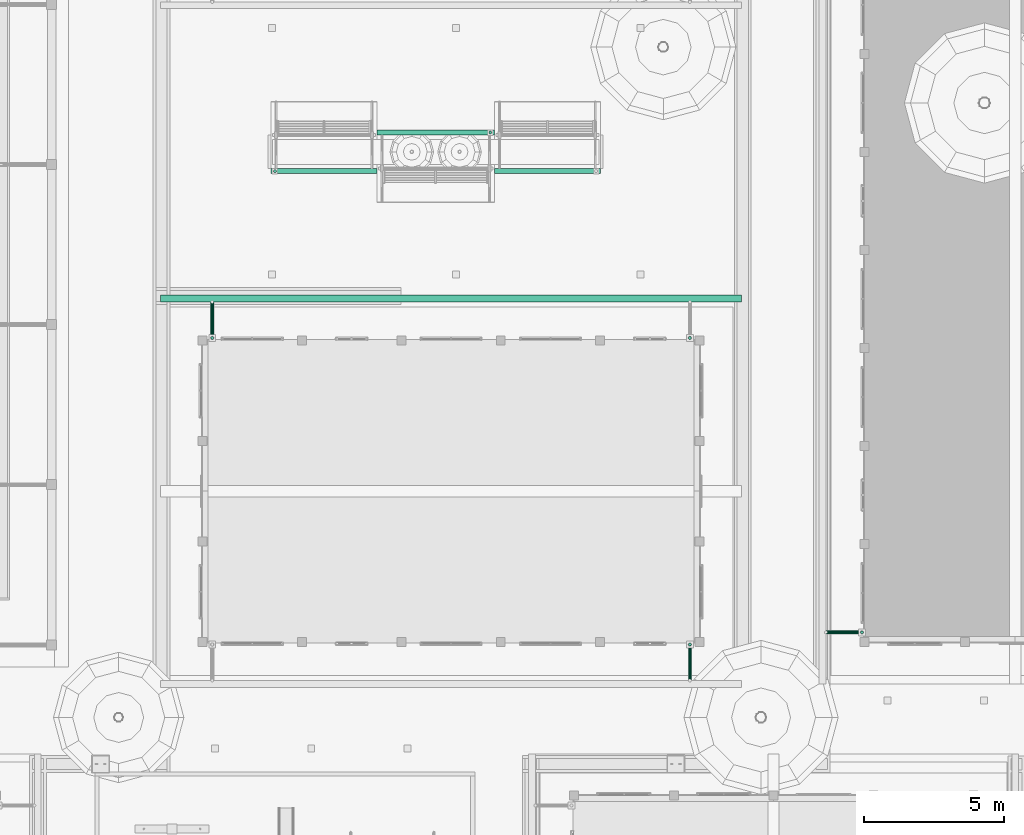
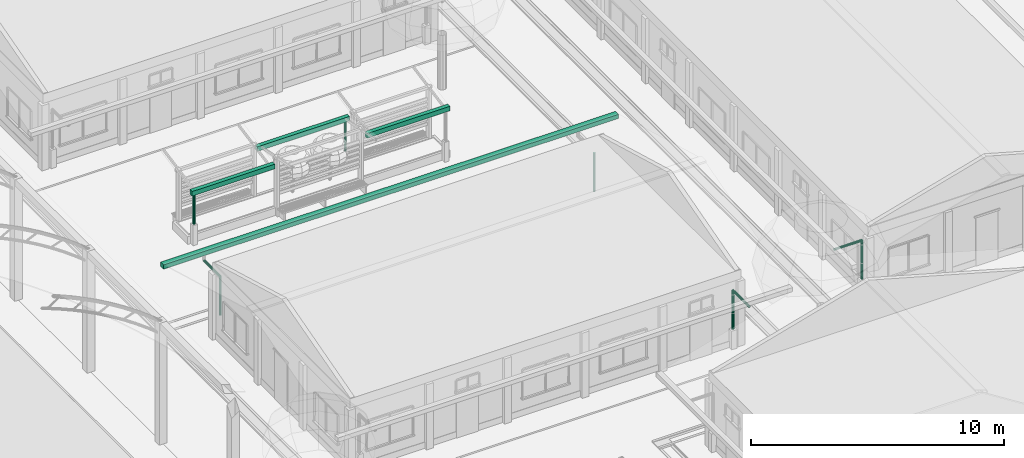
# One storey, part 109 of 177: 13 pipe segments.
"""IFC4 building model written with IfcOpenShell, lengths in metres."""

from ifc_helpers import new_model, si_unit, origin, origin_with_axes, place, context, subcontext, project, spatial, triangles, element, save


model = new_model("IFC4")

# Units and contexts
model_context = context("Model", 3, precision=1e-05, world=origin_with_axes())
body_context = subcontext(model_context, "Body", "Model", "MODEL_VIEW")
ifc_project = project(units=[si_unit("LENGTHUNIT", "METRE"), si_unit("AREAUNIT", "SQUARE_METRE"), si_unit("VOLUMEUNIT", "CUBIC_METRE"), si_unit("PLANEANGLEUNIT", "RADIAN")], contexts=[model_context])

# Site, building, storey
site_placement = place(None, origin_with_axes())
site = spatial("IfcSite", under=ifc_project, at=site_placement, Name="Predio Los Mangos - Morales, San Martín", CompositionType="ELEMENT")
building_placement = place(site_placement, origin())
building = spatial("IfcBuilding", under=site, at=building_placement, Name="Hogar de Refugio Temporal", CompositionType="ELEMENT")
storey_placement = place(building_placement, origin())
storey = spatial("IfcBuildingStorey", under=building, at=storey_placement, Name="NIVEL 1 (NPT +0.00)", CompositionType="ELEMENT", Elevation=0.0)

# Pipe segments
pipe_segment_1_placement = place(storey_placement, origin())
element("IfcPipeSegment", 1, at=pipe_segment_1_placement, inside=storey, Name="E-06_canaleta", ObjectType="Canaleta", PredefinedType="GUTTER", context=body_context, shape_type="Tessellation", body=[
    triangles([(30.5, 104.88, 3.13), (51.3, 104.88, 3.13), (51.3, 105.12, 3.13), (30.5, 105.12, 3.13), (30.5, 104.88, 3.33), (51.3, 104.88, 3.33), (51.3, 105.12, 3.33), (30.5, 105.12, 3.33)], [[1, 4, 3], [1, 3, 2], [5, 6, 7], [5, 7, 8], [1, 2, 6], [1, 6, 5], [2, 3, 7], [2, 7, 6], [3, 4, 8], [3, 8, 7], [4, 1, 5], [4, 5, 8]]),
])
pipe_segment_2_placement = place(storey_placement, origin())
element("IfcPipeSegment", 2, at=pipe_segment_2_placement, inside=storey, Name="montante_desvio", ObjectType="Montante PVC 4\"", PredefinedType="RIGIDSEGMENT", context=body_context, shape_type="Tessellation", body=[
    triangles([(49.45, 91.32, 2.965), (49.45, 92.61, 2.965), (49.4225, 91.32, 2.9576), (49.4225, 92.61, 2.9576), (49.4024, 91.32, 2.9375), (49.4024, 92.61, 2.9375), (49.395, 91.32, 2.91), (49.395, 92.61, 2.91), (49.4024, 91.32, 2.8825), (49.4024, 92.61, 2.8825), (49.4225, 91.32, 2.8624), (49.4225, 92.61, 2.8624), (49.45, 91.32, 2.855), (49.45, 92.61, 2.855), (49.4775, 91.32, 2.8624), (49.4775, 92.61, 2.8624), (49.4976, 91.32, 2.8825), (49.4976, 92.61, 2.8825), (49.505, 91.32, 2.91), (49.505, 92.61, 2.91), (49.4976, 91.32, 2.9375), (49.4976, 92.61, 2.9375), (49.4775, 91.32, 2.9576), (49.4775, 92.61, 2.9576)], [[1, 2, 4], [1, 4, 3], [3, 4, 6], [3, 6, 5], [5, 6, 8], [5, 8, 7], [7, 8, 10], [7, 10, 9], [9, 10, 12], [9, 12, 11], [11, 12, 14], [11, 14, 13], [13, 14, 16], [13, 16, 15], [15, 16, 18], [15, 18, 17], [17, 18, 20], [17, 20, 19], [19, 20, 22], [19, 22, 21], [6, 4, 2], [2, 24, 22], [22, 20, 18], [18, 16, 14], [14, 12, 10], [10, 8, 6], [6, 2, 22], [22, 18, 14], [14, 10, 6], [22, 14, 6], [21, 22, 24], [21, 24, 23], [23, 24, 2], [23, 2, 1], [23, 1, 3], [3, 5, 7], [7, 9, 11], [11, 13, 15], [15, 17, 19], [19, 21, 23], [23, 3, 7], [7, 11, 15], [15, 19, 23], [7, 15, 23]]),
])
pipe_segment_3_placement = place(storey_placement, origin())
element("IfcPipeSegment", 3, at=pipe_segment_3_placement, inside=storey, Name="montante_bajada", ObjectType="Montante PVC 4\"", PredefinedType="RIGIDSEGMENT", context=body_context, shape_type="Tessellation", body=[
    triangles([(49.45, 92.665, 2.91), (49.45, 92.665, 1.05), (49.4225, 92.6576, 2.91), (49.4225, 92.6576, 1.05), (49.4024, 92.6375, 2.91), (49.4024, 92.6375, 1.05), (49.395, 92.61, 2.91), (49.395, 92.61, 1.05), (49.4024, 92.5825, 2.91), (49.4024, 92.5825, 1.05), (49.4225, 92.5624, 2.91), (49.4225, 92.5624, 1.05), (49.45, 92.555, 2.91), (49.45, 92.555, 1.05), (49.4775, 92.5624, 2.91), (49.4775, 92.5624, 1.05), (49.4976, 92.5825, 2.91), (49.4976, 92.5825, 1.05), (49.505, 92.61, 2.91), (49.505, 92.61, 1.05), (49.4976, 92.6375, 2.91), (49.4976, 92.6375, 1.05), (49.4775, 92.6576, 2.91), (49.4775, 92.6576, 1.05)], [[1, 2, 4], [1, 4, 3], [3, 4, 6], [3, 6, 5], [5, 6, 8], [5, 8, 7], [7, 8, 10], [7, 10, 9], [9, 10, 12], [9, 12, 11], [11, 12, 14], [11, 14, 13], [13, 14, 16], [13, 16, 15], [15, 16, 18], [15, 18, 17], [17, 18, 20], [17, 20, 19], [19, 20, 22], [19, 22, 21], [6, 4, 2], [2, 24, 22], [22, 20, 18], [18, 16, 14], [14, 12, 10], [10, 8, 6], [6, 2, 22], [22, 18, 14], [14, 10, 6], [22, 14, 6], [21, 22, 24], [21, 24, 23], [23, 24, 2], [23, 2, 1], [23, 1, 3], [3, 5, 7], [7, 9, 11], [11, 13, 15], [15, 17, 19], [19, 21, 23], [23, 3, 7], [7, 11, 15], [15, 19, 23], [7, 15, 23]]),
])
pipe_segment_4_placement = place(storey_placement, origin())
element("IfcPipeSegment", 4, at=pipe_segment_4_placement, inside=storey, Name="montante_desvio", ObjectType="Montante PVC 4\"", PredefinedType="RIGIDSEGMENT", context=body_context, shape_type="Tessellation", body=[
    triangles([(32.35, 104.88, 2.965), (32.35, 103.59, 2.965), (32.3775, 104.88, 2.9576), (32.3775, 103.59, 2.9576), (32.3976, 104.88, 2.9375), (32.3976, 103.59, 2.9375), (32.405, 104.88, 2.91), (32.405, 103.59, 2.91), (32.3976, 104.88, 2.8825), (32.3976, 103.59, 2.8825), (32.3775, 104.88, 2.8624), (32.3775, 103.59, 2.8624), (32.35, 104.88, 2.855), (32.35, 103.59, 2.855), (32.3225, 104.88, 2.8624), (32.3225, 103.59, 2.8624), (32.3024, 104.88, 2.8825), (32.3024, 103.59, 2.8825), (32.295, 104.88, 2.91), (32.295, 103.59, 2.91), (32.3024, 104.88, 2.9375), (32.3024, 103.59, 2.9375), (32.3225, 104.88, 2.9576), (32.3225, 103.59, 2.9576)], [[1, 2, 4], [1, 4, 3], [3, 4, 6], [3, 6, 5], [5, 6, 8], [5, 8, 7], [7, 8, 10], [7, 10, 9], [9, 10, 12], [9, 12, 11], [11, 12, 14], [11, 14, 13], [13, 14, 16], [13, 16, 15], [15, 16, 18], [15, 18, 17], [17, 18, 20], [17, 20, 19], [19, 20, 22], [19, 22, 21], [6, 4, 2], [2, 24, 22], [22, 20, 18], [18, 16, 14], [14, 12, 10], [10, 8, 6], [6, 2, 22], [22, 18, 14], [14, 10, 6], [22, 14, 6], [21, 22, 24], [21, 24, 23], [23, 24, 2], [23, 2, 1], [23, 1, 3], [3, 5, 7], [7, 9, 11], [11, 13, 15], [15, 17, 19], [19, 21, 23], [23, 3, 7], [7, 11, 15], [15, 19, 23], [7, 15, 23]]),
])
pipe_segment_5_placement = place(storey_placement, origin())
element("IfcPipeSegment", 5, at=pipe_segment_5_placement, inside=storey, Name="montante_bajada", ObjectType="Montante PVC 4\"", PredefinedType="RIGIDSEGMENT", context=body_context, shape_type="Tessellation", body=[
    triangles([(32.35, 103.645, 2.91), (32.35, 103.645, 1.05), (32.3225, 103.6376, 2.91), (32.3225, 103.6376, 1.05), (32.3024, 103.6175, 2.91), (32.3024, 103.6175, 1.05), (32.295, 103.59, 2.91), (32.295, 103.59, 1.05), (32.3024, 103.5625, 2.91), (32.3024, 103.5625, 1.05), (32.3225, 103.5424, 2.91), (32.3225, 103.5424, 1.05), (32.35, 103.535, 2.91), (32.35, 103.535, 1.05), (32.3775, 103.5424, 2.91), (32.3775, 103.5424, 1.05), (32.3976, 103.5625, 2.91), (32.3976, 103.5625, 1.05), (32.405, 103.59, 2.91), (32.405, 103.59, 1.05), (32.3976, 103.6175, 2.91), (32.3976, 103.6175, 1.05), (32.3775, 103.6376, 2.91), (32.3775, 103.6376, 1.05)], [[1, 2, 4], [1, 4, 3], [3, 4, 6], [3, 6, 5], [5, 6, 8], [5, 8, 7], [7, 8, 10], [7, 10, 9], [9, 10, 12], [9, 12, 11], [11, 12, 14], [11, 14, 13], [13, 14, 16], [13, 16, 15], [15, 16, 18], [15, 18, 17], [17, 18, 20], [17, 20, 19], [19, 20, 22], [19, 22, 21], [6, 4, 2], [2, 24, 22], [22, 20, 18], [18, 16, 14], [14, 12, 10], [10, 8, 6], [6, 2, 22], [22, 18, 14], [14, 10, 6], [22, 14, 6], [21, 22, 24], [21, 24, 23], [23, 24, 2], [23, 2, 1], [23, 1, 3], [3, 5, 7], [7, 9, 11], [11, 13, 15], [15, 17, 19], [19, 21, 23], [23, 3, 7], [7, 11, 15], [15, 19, 23], [7, 15, 23]]),
])
pipe_segment_6_placement = place(storey_placement, origin())
element("IfcPipeSegment", 6, at=pipe_segment_6_placement, inside=storey, Name="montante_bajada", ObjectType="Montante PVC 4\"", PredefinedType="RIGIDSEGMENT", context=body_context, shape_type="Tessellation", body=[
    triangles([(49.45, 103.645, 2.91), (49.45, 103.645, 1.05), (49.4225, 103.6376, 2.91), (49.4225, 103.6376, 1.05), (49.4024, 103.6175, 2.91), (49.4024, 103.6175, 1.05), (49.395, 103.59, 2.91), (49.395, 103.59, 1.05), (49.4024, 103.5625, 2.91), (49.4024, 103.5625, 1.05), (49.4225, 103.5424, 2.91), (49.4225, 103.5424, 1.05), (49.45, 103.535, 2.91), (49.45, 103.535, 1.05), (49.4775, 103.5424, 2.91), (49.4775, 103.5424, 1.05), (49.4976, 103.5625, 2.91), (49.4976, 103.5625, 1.05), (49.505, 103.59, 2.91), (49.505, 103.59, 1.05), (49.4976, 103.6175, 2.91), (49.4976, 103.6175, 1.05), (49.4775, 103.6376, 2.91), (49.4775, 103.6376, 1.05)], [[1, 2, 4], [1, 4, 3], [3, 4, 6], [3, 6, 5], [5, 6, 8], [5, 8, 7], [7, 8, 10], [7, 10, 9], [9, 10, 12], [9, 12, 11], [11, 12, 14], [11, 14, 13], [13, 14, 16], [13, 16, 15], [15, 16, 18], [15, 18, 17], [17, 18, 20], [17, 20, 19], [19, 20, 22], [19, 22, 21], [6, 4, 2], [2, 24, 22], [22, 20, 18], [18, 16, 14], [14, 12, 10], [10, 8, 6], [6, 2, 22], [22, 18, 14], [14, 10, 6], [22, 14, 6], [21, 22, 24], [21, 24, 23], [23, 24, 2], [23, 2, 1], [23, 1, 3], [3, 5, 7], [7, 9, 11], [11, 13, 15], [15, 17, 19], [19, 21, 23], [23, 3, 7], [7, 11, 15], [15, 19, 23], [7, 15, 23]]),
])
pipe_segment_7_placement = place(storey_placement, origin())
element("IfcPipeSegment", 7, at=pipe_segment_7_placement, inside=storey, Name="montante_desvio", ObjectType="Montante PVC 4\"", PredefinedType="RIGIDSEGMENT", context=body_context, shape_type="Tessellation", body=[
    triangles([(54.32, 93.05, 2.965), (55.61, 93.05, 2.965), (54.32, 93.0775, 2.9576), (55.61, 93.0775, 2.9576), (54.32, 93.0976, 2.9375), (55.61, 93.0976, 2.9375), (54.32, 93.105, 2.91), (55.61, 93.105, 2.91), (54.32, 93.0976, 2.8825), (55.61, 93.0976, 2.8825), (54.32, 93.0775, 2.8624), (55.61, 93.0775, 2.8624), (54.32, 93.05, 2.855), (55.61, 93.05, 2.855), (54.32, 93.0225, 2.8624), (55.61, 93.0225, 2.8624), (54.32, 93.0024, 2.8825), (55.61, 93.0024, 2.8825), (54.32, 92.995, 2.91), (55.61, 92.995, 2.91), (54.32, 93.0024, 2.9375), (55.61, 93.0024, 2.9375), (54.32, 93.0225, 2.9576), (55.61, 93.0225, 2.9576)], [[1, 2, 4], [1, 4, 3], [3, 4, 6], [3, 6, 5], [5, 6, 8], [5, 8, 7], [7, 8, 10], [7, 10, 9], [9, 10, 12], [9, 12, 11], [11, 12, 14], [11, 14, 13], [13, 14, 16], [13, 16, 15], [15, 16, 18], [15, 18, 17], [17, 18, 20], [17, 20, 19], [19, 20, 22], [19, 22, 21], [6, 4, 2], [2, 24, 22], [22, 20, 18], [18, 16, 14], [14, 12, 10], [10, 8, 6], [6, 2, 22], [22, 18, 14], [14, 10, 6], [22, 14, 6], [21, 22, 24], [21, 24, 23], [23, 24, 2], [23, 2, 1], [23, 1, 3], [3, 5, 7], [7, 9, 11], [11, 13, 15], [15, 17, 19], [19, 21, 23], [23, 3, 7], [7, 11, 15], [15, 19, 23], [7, 15, 23]]),
])
pipe_segment_8_placement = place(storey_placement, origin())
element("IfcPipeSegment", 8, at=pipe_segment_8_placement, inside=storey, Name="montante_bajada", ObjectType="Montante PVC 4\"", PredefinedType="RIGIDSEGMENT", context=body_context, shape_type="Tessellation", body=[
    triangles([(55.61, 93.105, 2.91), (55.61, 93.105, 1.05), (55.5825, 93.0976, 2.91), (55.5825, 93.0976, 1.05), (55.5624, 93.0775, 2.91), (55.5624, 93.0775, 1.05), (55.555, 93.05, 2.91), (55.555, 93.05, 1.05), (55.5624, 93.0225, 2.91), (55.5624, 93.0225, 1.05), (55.5825, 93.0024, 2.91), (55.5825, 93.0024, 1.05), (55.61, 92.995, 2.91), (55.61, 92.995, 1.05), (55.6375, 93.0024, 2.91), (55.6375, 93.0024, 1.05), (55.6576, 93.0225, 2.91), (55.6576, 93.0225, 1.05), (55.665, 93.05, 2.91), (55.665, 93.05, 1.05), (55.6576, 93.0775, 2.91), (55.6576, 93.0775, 1.05), (55.6375, 93.0976, 2.91), (55.6375, 93.0976, 1.05)], [[1, 2, 4], [1, 4, 3], [3, 4, 6], [3, 6, 5], [5, 6, 8], [5, 8, 7], [7, 8, 10], [7, 10, 9], [9, 10, 12], [9, 12, 11], [11, 12, 14], [11, 14, 13], [13, 14, 16], [13, 16, 15], [15, 16, 18], [15, 18, 17], [17, 18, 20], [17, 20, 19], [19, 20, 22], [19, 22, 21], [6, 4, 2], [2, 24, 22], [22, 20, 18], [18, 16, 14], [14, 12, 10], [10, 8, 6], [6, 2, 22], [22, 18, 14], [14, 10, 6], [22, 14, 6], [21, 22, 24], [21, 24, 23], [23, 24, 2], [23, 2, 1], [23, 1, 3], [3, 5, 7], [7, 9, 11], [11, 13, 15], [15, 17, 19], [19, 21, 23], [23, 3, 7], [7, 11, 15], [15, 19, 23], [7, 15, 23]]),
])
pipe_segment_9_placement = place(storey_placement, origin())
element("IfcPipeSegment", 9, at=pipe_segment_9_placement, inside=storey, Name="oc01_canaleta", ObjectType="Canaleta", PredefinedType="GUTTER", context=body_context, shape_type="Tessellation", body=[
    triangles([(46.245, 109.65, 2.49), (42.455, 109.65, 2.49), (42.455, 109.47, 2.49), (46.245, 109.47, 2.49), (46.245, 109.65, 2.71), (42.455, 109.65, 2.71), (42.455, 109.47, 2.71), (46.245, 109.47, 2.71)], [[1, 4, 3], [1, 3, 2], [5, 6, 7], [5, 7, 8], [1, 2, 6], [1, 6, 5], [2, 3, 7], [2, 7, 6], [3, 4, 8], [3, 8, 7], [4, 1, 5], [4, 5, 8]]),
])
pipe_segment_10_placement = place(storey_placement, origin())
element("IfcPipeSegment", 10, at=pipe_segment_10_placement, inside=storey, Name="oc01_canaleta", ObjectType="Canaleta", PredefinedType="GUTTER", context=body_context, shape_type="Tessellation", body=[
    triangles([(42.455, 111.03, 2.49), (38.245, 111.03, 2.49), (38.245, 110.85, 2.49), (42.455, 110.85, 2.49), (42.455, 111.03, 2.71), (38.245, 111.03, 2.71), (38.245, 110.85, 2.71), (42.455, 110.85, 2.71)], [[1, 4, 3], [1, 3, 2], [5, 6, 7], [5, 7, 8], [1, 2, 6], [1, 6, 5], [2, 3, 7], [2, 7, 6], [3, 4, 8], [3, 8, 7], [4, 1, 5], [4, 5, 8]]),
])
pipe_segment_11_placement = place(storey_placement, origin())
element("IfcPipeSegment", 11, at=pipe_segment_11_placement, inside=storey, Name="oc01_bajada", ObjectType="Montante PVC 4\"", PredefinedType="RIGIDSEGMENT", context=body_context, shape_type="Tessellation", body=[
    triangles([(42.305, 110.995, 2.49), (42.305, 110.995, 1.05), (42.2775, 110.9876, 2.49), (42.2775, 110.9876, 1.05), (42.2574, 110.9675, 2.49), (42.2574, 110.9675, 1.05), (42.25, 110.94, 2.49), (42.25, 110.94, 1.05), (42.2574, 110.9125, 2.49), (42.2574, 110.9125, 1.05), (42.2775, 110.8924, 2.49), (42.2775, 110.8924, 1.05), (42.305, 110.885, 2.49), (42.305, 110.885, 1.05), (42.3325, 110.8924, 2.49), (42.3325, 110.8924, 1.05), (42.3526, 110.9125, 2.49), (42.3526, 110.9125, 1.05), (42.36, 110.94, 2.49), (42.36, 110.94, 1.05), (42.3526, 110.9675, 2.49), (42.3526, 110.9675, 1.05), (42.3325, 110.9876, 2.49), (42.3325, 110.9876, 1.05)], [[1, 2, 4], [1, 4, 3], [3, 4, 6], [3, 6, 5], [5, 6, 8], [5, 8, 7], [7, 8, 10], [7, 10, 9], [9, 10, 12], [9, 12, 11], [11, 12, 14], [11, 14, 13], [13, 14, 16], [13, 16, 15], [15, 16, 18], [15, 18, 17], [17, 18, 20], [17, 20, 19], [19, 20, 22], [19, 22, 21], [6, 4, 2], [2, 24, 22], [22, 20, 18], [18, 16, 14], [14, 12, 10], [10, 8, 6], [6, 2, 22], [22, 18, 14], [14, 10, 6], [22, 14, 6], [21, 22, 24], [21, 24, 23], [23, 24, 2], [23, 2, 1], [23, 1, 3], [3, 5, 7], [7, 9, 11], [11, 13, 15], [15, 17, 19], [19, 21, 23], [23, 3, 7], [7, 11, 15], [15, 19, 23], [7, 15, 23]]),
])
pipe_segment_12_placement = place(storey_placement, origin())
element("IfcPipeSegment", 12, at=pipe_segment_12_placement, inside=storey, Name="oc01_canaleta", ObjectType="Canaleta", PredefinedType="GUTTER", context=body_context, shape_type="Tessellation", body=[
    triangles([(38.245, 109.65, 2.49), (34.455, 109.65, 2.49), (34.455, 109.47, 2.49), (38.245, 109.47, 2.49), (38.245, 109.65, 2.71), (34.455, 109.65, 2.71), (34.455, 109.47, 2.71), (38.245, 109.47, 2.71)], [[1, 4, 3], [1, 3, 2], [5, 6, 7], [5, 7, 8], [1, 2, 6], [1, 6, 5], [2, 3, 7], [2, 7, 6], [3, 4, 8], [3, 8, 7], [4, 1, 5], [4, 5, 8]]),
])
pipe_segment_13_placement = place(storey_placement, origin())
element("IfcPipeSegment", 13, at=pipe_segment_13_placement, inside=storey, Name="oc01_bajada", ObjectType="Montante PVC 4\"", PredefinedType="RIGIDSEGMENT", context=body_context, shape_type="Tessellation", body=[
    triangles([(34.595, 109.615, 2.49), (34.595, 109.615, 1.05), (34.5675, 109.6076, 2.49), (34.5675, 109.6076, 1.05), (34.5474, 109.5875, 2.49), (34.5474, 109.5875, 1.05), (34.54, 109.56, 2.49), (34.54, 109.56, 1.05), (34.5474, 109.5325, 2.49), (34.5474, 109.5325, 1.05), (34.5675, 109.5124, 2.49), (34.5675, 109.5124, 1.05), (34.595, 109.505, 2.49), (34.595, 109.505, 1.05), (34.6225, 109.5124, 2.49), (34.6225, 109.5124, 1.05), (34.6426, 109.5325, 2.49), (34.6426, 109.5325, 1.05), (34.65, 109.56, 2.49), (34.65, 109.56, 1.05), (34.6426, 109.5875, 2.49), (34.6426, 109.5875, 1.05), (34.6225, 109.6076, 2.49), (34.6225, 109.6076, 1.05)], [[1, 2, 4], [1, 4, 3], [3, 4, 6], [3, 6, 5], [5, 6, 8], [5, 8, 7], [7, 8, 10], [7, 10, 9], [9, 10, 12], [9, 12, 11], [11, 12, 14], [11, 14, 13], [13, 14, 16], [13, 16, 15], [15, 16, 18], [15, 18, 17], [17, 18, 20], [17, 20, 19], [19, 20, 22], [19, 22, 21], [6, 4, 2], [2, 24, 22], [22, 20, 18], [18, 16, 14], [14, 12, 10], [10, 8, 6], [6, 2, 22], [22, 18, 14], [14, 10, 6], [22, 14, 6], [21, 22, 24], [21, 24, 23], [23, 24, 2], [23, 2, 1], [23, 1, 3], [3, 5, 7], [7, 9, 11], [11, 13, 15], [15, 17, 19], [19, 21, 23], [23, 3, 7], [7, 11, 15], [15, 19, 23], [7, 15, 23]]),
])

save(model, "model.ifc")
